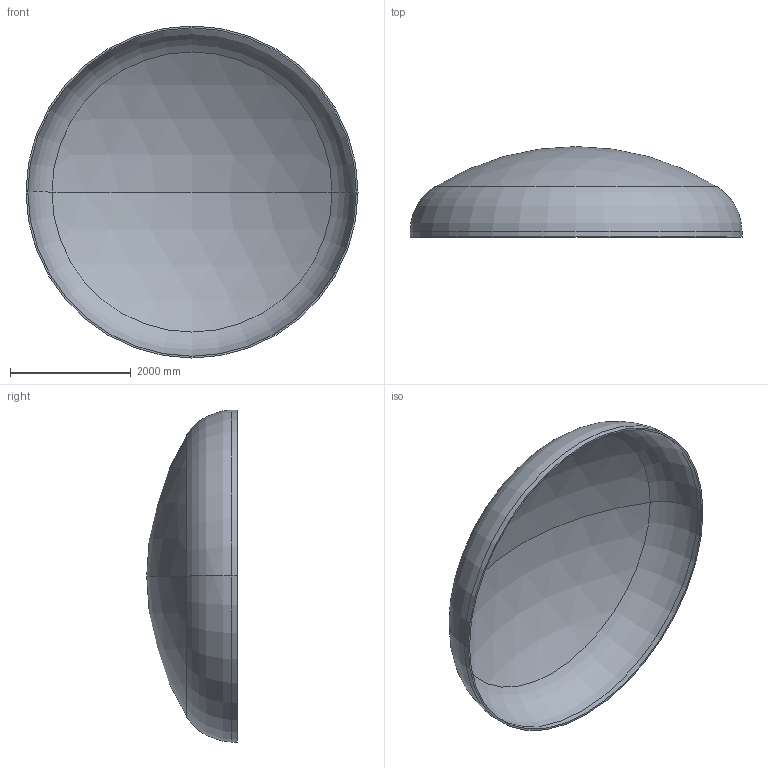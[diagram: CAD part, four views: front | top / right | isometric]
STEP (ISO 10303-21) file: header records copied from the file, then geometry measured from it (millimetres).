
FILE_DESCRIPTION (( 'STEP AP203' ), '1' );
FILE_NAME ('DIN 28013 Korbbogenform_-_Boden DIN 28013 - 5500 x 90 - I - s=30.step', '2016-07-04T10:33:53', ( '' ), ( '' ), 'SwSTEP 2.0', 'SolidWorks 2013', '' );
FILE_SCHEMA (( 'CONFIG_CONTROL_DESIGN' ));
Length unit declared in the file: millimetre
Products named in the file (1): DIN 28013 Korbbogenform_-_Boden DIN 28013 - 5500 x 90 - I - s=30
Bounding box: 5500 x 1499.67 x 5500 mm (x, y, z)
Volume: 1026029560.2 mm3; surface area: 68919364 mm2
Topology: 1 solids, 1 shells, 13 faces, 24 edges, 14 vertices
Faces by surface type: torus 4, cylinder 4, sphere 4, plane 1
Entity records: 407 total; most frequent: DIRECTION 72, CARTESIAN_POINT 52, ORIENTED_EDGE 48, AXIS2_PLACEMENT_3D 34, EDGE_CURVE 24, CIRCLE 20, VERTEX_POINT 14, EDGE_LOOP 14
